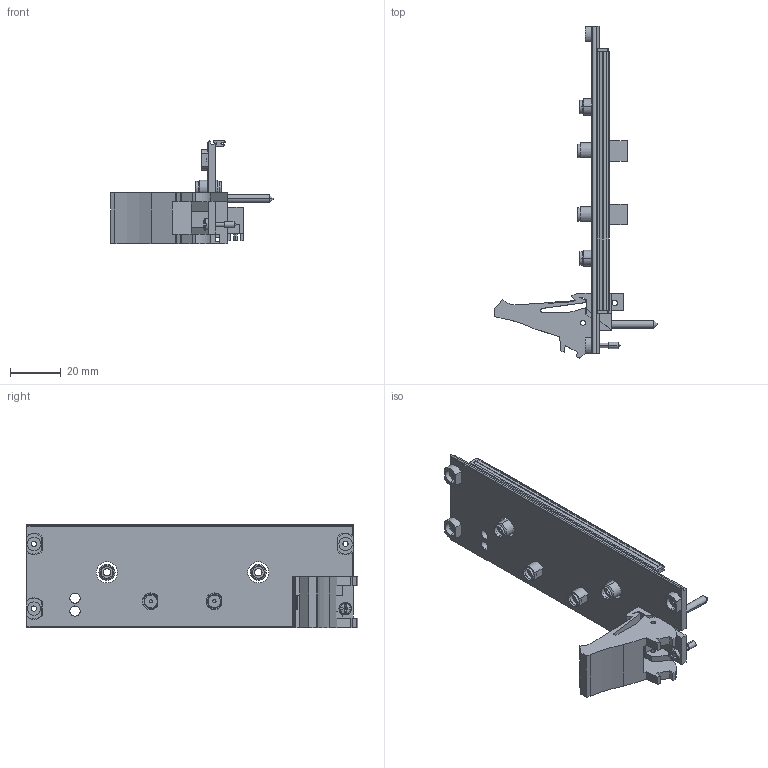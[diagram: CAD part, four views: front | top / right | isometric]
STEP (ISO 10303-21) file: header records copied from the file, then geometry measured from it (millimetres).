
FILE_DESCRIPTION((''),'2;1');
FILE_NAME('CU_PXIE-5630','2010-07-30T',('jjorden'),(''),'PRO/ENGINEER BY PARAMETRIC TECHNOLOGY CORPORATION, 2006510','PRO/ENGINEER BY PARAMETRIC TECHNOLOGY CORPORATION, 2006510','');
FILE_SCHEMA(('CONFIG_CONTROL_DESIGN'));
Length unit declared in the file: inch
Products named in the file (1): CU_PXIE-5630
Bounding box: 63.73 x 130.44 x 40.57 mm (x, y, z)
Volume: 24575.8 mm3; surface area: 23026.7 mm2
Topology: 3 solids, 3 shells, 497 faces, 1322 edges, 865 vertices
Faces by surface type: plane 294, cylinder 177, cone 22, torus 2, sphere 2
Entity records: 15648 total; most frequent: CARTESIAN_POINT 2856, DIRECTION 2672, ORIENTED_EDGE 2636, EDGE_CURVE 1318, AXIS2_PLACEMENT_3D 891, VECTOR 890, LINE 890, VERTEX_POINT 863
